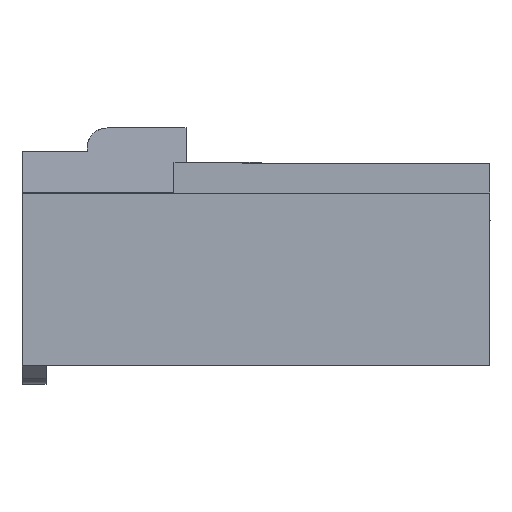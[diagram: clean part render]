
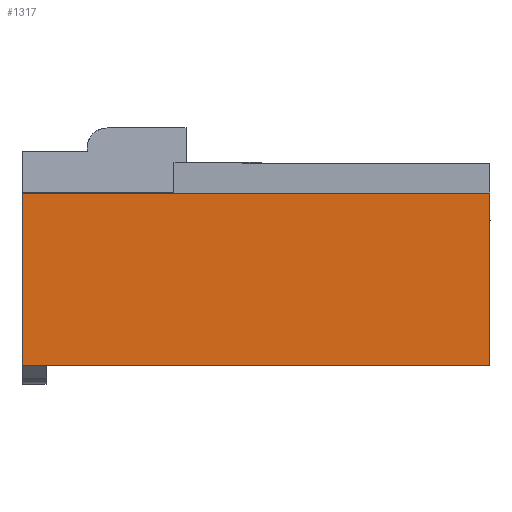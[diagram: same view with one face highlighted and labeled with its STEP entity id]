
A CAD part, front view. The second image highlights one B-rep face of the part: STEP entity #1317.
In plain terms, the highlighted planar face has unit normal (0, -1, 0).
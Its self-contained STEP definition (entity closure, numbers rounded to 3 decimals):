
#1296=AXIS2_PLACEMENT_3D('Plane Axis2P3D',#1293,#1294,#1295) ;
#351=CARTESIAN_POINT('Vertex',(-23.4,-19.5,-5.675)) ;
#354=CARTESIAN_POINT('Line Origine',(-23.4,-19.5,-1.35)) ;
#358=CARTESIAN_POINT('Vertex',(-23.4,-19.5,2.975)) ;
#599=CARTESIAN_POINT('Line Origine',(-11.7,-19.5,2.975)) ;
#603=CARTESIAN_POINT('Vertex',(0.,-19.5,2.975)) ;
#1278=CARTESIAN_POINT('Vertex',(-22.2,-19.5,-5.675)) ;
#1281=CARTESIAN_POINT('Line Origine',(-22.8,-19.5,-5.675)) ;
#1293=CARTESIAN_POINT('Axis2P3D Location',(0.,-19.5,1.65)) ;
#1298=CARTESIAN_POINT('Line Origine',(-11.1,-19.5,-5.675)) ;
#1302=CARTESIAN_POINT('Vertex',(0.,-19.5,-5.675)) ;
#1305=CARTESIAN_POINT('Line Origine',(0.,-19.5,-1.35)) ;
#355=DIRECTION('Vector Direction',(0.,0.,1.)) ;
#600=DIRECTION('Vector Direction',(-1.,0.,0.)) ;
#1282=DIRECTION('Vector Direction',(-1.,0.,0.)) ;
#1294=DIRECTION('Axis2P3D Direction',(0.,1.,0.)) ;
#1295=DIRECTION('Axis2P3D XDirection',(0.,0.,-1.)) ;
#1299=DIRECTION('Vector Direction',(-1.,0.,0.)) ;
#1306=DIRECTION('Vector Direction',(0.,0.,-1.)) ;
#356=VECTOR('Line Direction',#355,1.) ;
#601=VECTOR('Line Direction',#600,1.) ;
#1283=VECTOR('Line Direction',#1282,1.) ;
#1300=VECTOR('Line Direction',#1299,1.) ;
#1307=VECTOR('Line Direction',#1306,1.) ;
#1311=ORIENTED_EDGE('',*,*,#605,.T.) ;
#1312=ORIENTED_EDGE('',*,*,#360,.F.) ;
#1313=ORIENTED_EDGE('',*,*,#1285,.F.) ;
#1314=ORIENTED_EDGE('',*,*,#1304,.F.) ;
#1315=ORIENTED_EDGE('',*,*,#1309,.F.) ;
#1317=ADVANCED_FACE('\X2\FF8EFF9EFF83FF9EFF68FF70\X0\1',(#1316),#1297,.F.) ;
#360=EDGE_CURVE('',#352,#359,#357,.T.) ;
#605=EDGE_CURVE('',#604,#359,#602,.T.) ;
#1285=EDGE_CURVE('',#1279,#352,#1284,.T.) ;
#1304=EDGE_CURVE('',#1303,#1279,#1301,.T.) ;
#1309=EDGE_CURVE('',#604,#1303,#1308,.T.) ;
#1310=EDGE_LOOP('',(#1311,#1312,#1313,#1314,#1315)) ;
#1316=FACE_OUTER_BOUND('',#1310,.T.) ;
#357=LINE('Line',#354,#356) ;
#602=LINE('Line',#599,#601) ;
#1284=LINE('Line',#1281,#1283) ;
#1301=LINE('Line',#1298,#1300) ;
#1308=LINE('Line',#1305,#1307) ;
#1297=PLANE('',#1296) ;
#352=VERTEX_POINT('',#351) ;
#359=VERTEX_POINT('',#358) ;
#604=VERTEX_POINT('',#603) ;
#1279=VERTEX_POINT('',#1278) ;
#1303=VERTEX_POINT('',#1302) ;
